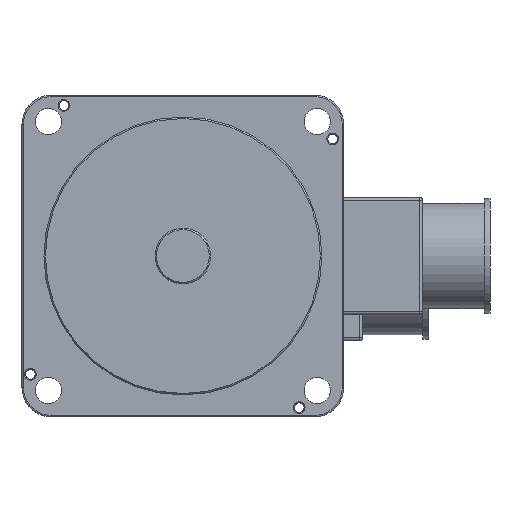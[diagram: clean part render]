
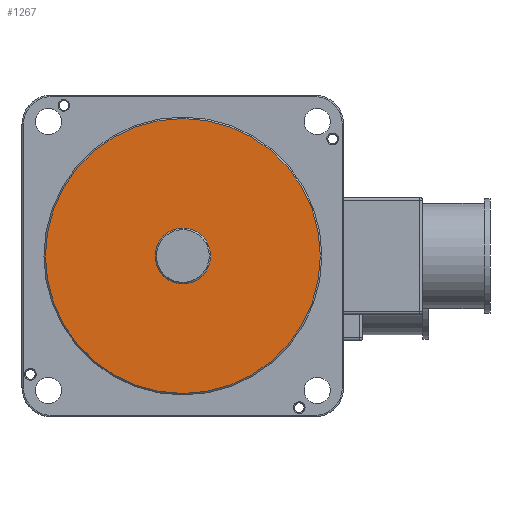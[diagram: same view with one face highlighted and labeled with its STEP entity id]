
A CAD part, left-side view. The second image highlights one B-rep face of the part: STEP entity #1267.
In plain terms, the highlighted planar face has unit normal (-1, 0, 0).
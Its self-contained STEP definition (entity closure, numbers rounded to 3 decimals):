
#326=FACE_BOUND('',#1798,.T.);
#327=FACE_BOUND('',#1799,.T.);
#405=PLANE('',#4459);
#1051=CIRCLE('',#4451,9.5);
#1055=CIRCLE('',#4458,47.);
#1267=ADVANCED_FACE('',(#326,#327),#405,.F.);
#1798=EDGE_LOOP('',(#2264));
#1799=EDGE_LOOP('',(#2265));
#2264=ORIENTED_EDGE('',*,*,#3856,.T.);
#2265=ORIENTED_EDGE('',*,*,#3852,.T.);
#3468=VERTEX_POINT('',#7250);
#3472=VERTEX_POINT('',#7261);
#3852=EDGE_CURVE('',#3468,#3468,#1051,.T.);
#3856=EDGE_CURVE('',#3472,#3472,#1055,.T.);
#4451=AXIS2_PLACEMENT_3D('',#7249,#5156,#5157);
#4458=AXIS2_PLACEMENT_3D('',#7260,#5170,#5171);
#4459=AXIS2_PLACEMENT_3D('',#7262,#5172,#5173);
#5156=DIRECTION('',(1.,0.,0.));
#5157=DIRECTION('',(0.,1.,0.));
#5170=DIRECTION('',(-1.,0.,0.));
#5171=DIRECTION('',(0.,0.,-1.));
#5172=DIRECTION('',(1.,0.,0.));
#5173=DIRECTION('',(0.,0.,-1.));
#7249=CARTESIAN_POINT('',(51.,0.,0.));
#7250=CARTESIAN_POINT('',(51.,9.5,0.));
#7260=CARTESIAN_POINT('',(51.,0.,0.));
#7261=CARTESIAN_POINT('',(51.,0.,-47.));
#7262=CARTESIAN_POINT('',(51.,0.,0.));
